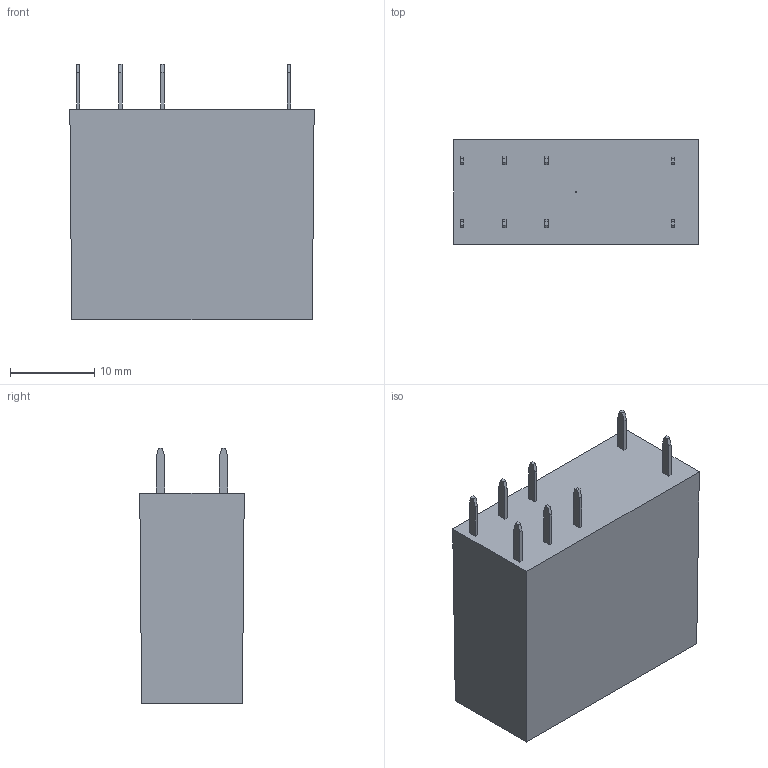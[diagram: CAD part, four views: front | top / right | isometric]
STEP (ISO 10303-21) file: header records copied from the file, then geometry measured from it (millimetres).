
FILE_DESCRIPTION(('STEP AP214'),'2;1');
FILE_NAME('4061.stp','2011-04-12T15:41:32',(''),(''),'2007.1.106','THINKDESIGN','');
FILE_SCHEMA(('AUTOMOTIVE_DESIGN'));
Length unit declared in the file: millimetre
Products named in the file (1): None
Bounding box: 29 x 12.4 x 30.3 mm (x, y, z)
Surface area: 2866.3 mm2 (no closed solid volume)
Topology: 0 solids, 0 shells, 67 faces, 327 edges, 324 vertices
Faces by surface type: plane 49, bspline 17, cylinder 1
Full cylindrical faces by diameter (mm): 1.8 x1
Entity records: 3547 total; most frequent: CARTESIAN_POINT 1159, DIRECTION 356, COMPOSITE_CURVE_SEGMENT 327, VECTOR 252, LINE 252, TRIMMED_CURVE 252, OUTER_BOUNDARY_CURVE 67, CURVE_BOUNDED_SURFACE 67
